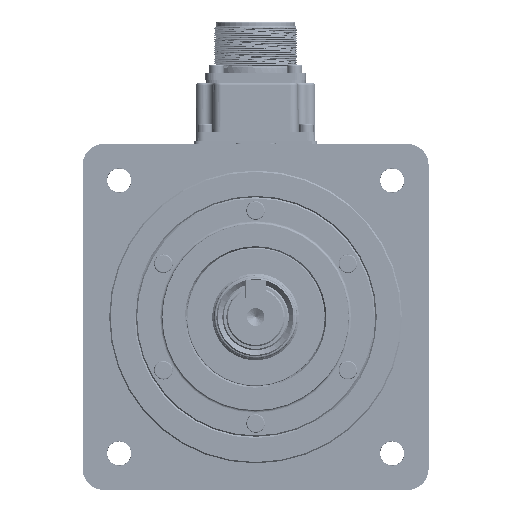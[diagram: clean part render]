
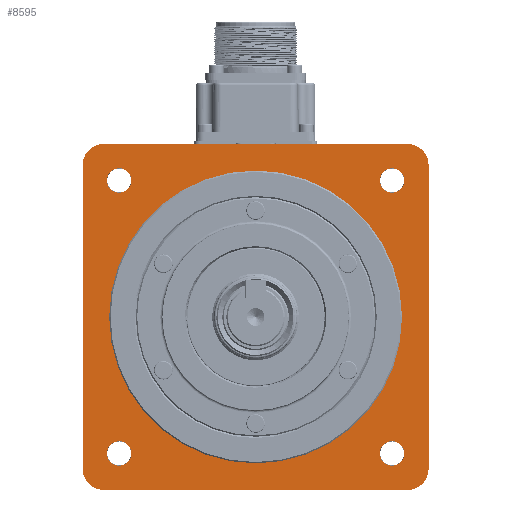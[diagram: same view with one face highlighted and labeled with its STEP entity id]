
A CAD part, front view. The second image highlights one B-rep face of the part: STEP entity #8595.
In plain terms, the highlighted planar face has unit normal (0, -1, 0).
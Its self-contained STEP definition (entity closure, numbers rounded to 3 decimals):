
#8595 = ADVANCED_FACE( '', ( #17385, #17386, #17387, #17388, #17389, #17390 ), #17391, .F. );
#17385 = FACE_BOUND( '', #37644, .T. );
#17386 = FACE_OUTER_BOUND( '', #37645, .T. );
#17387 = FACE_BOUND( '', #37646, .T. );
#17388 = FACE_BOUND( '', #37647, .T. );
#17389 = FACE_BOUND( '', #37648, .T. );
#17390 = FACE_BOUND( '', #37649, .T. );
#17391 = PLANE( '', #37650 );
#37644 = EDGE_LOOP( '', ( #62394 ) );
#37645 = EDGE_LOOP( '', ( #62395, #62396, #62397, #62398, #62399, #62400, #62401, #62402 ) );
#37646 = EDGE_LOOP( '', ( #62403 ) );
#37647 = EDGE_LOOP( '', ( #62404 ) );
#37648 = EDGE_LOOP( '', ( #62405 ) );
#37649 = EDGE_LOOP( '', ( #62406 ) );
#37650 = AXIS2_PLACEMENT_3D( '', #62407, #62408, #62409 );
#62394 = ORIENTED_EDGE( '', *, *, #63502, .F. );
#62395 = ORIENTED_EDGE( '', *, *, #65417, .F. );
#62396 = ORIENTED_EDGE( '', *, *, #70569, .T. );
#62397 = ORIENTED_EDGE( '', *, *, #70944, .F. );
#62398 = ORIENTED_EDGE( '', *, *, #63665, .T. );
#62399 = ORIENTED_EDGE( '', *, *, #68233, .F. );
#62400 = ORIENTED_EDGE( '', *, *, #69825, .T. );
#62401 = ORIENTED_EDGE( '', *, *, #67775, .F. );
#62402 = ORIENTED_EDGE( '', *, *, #70189, .T. );
#62403 = ORIENTED_EDGE( '', *, *, #66067, .F. );
#62404 = ORIENTED_EDGE( '', *, *, #64463, .F. );
#62405 = ORIENTED_EDGE( '', *, *, #65969, .F. );
#62406 = ORIENTED_EDGE( '', *, *, #68935, .F. );
#62407 = CARTESIAN_POINT( '', ( 0., 1.2, 55. ) );
#62408 = DIRECTION( '', ( 0., 1., 0. ) );
#62409 = DIRECTION( '', ( 0., 0., 1. ) );
#63502 = EDGE_CURVE( '', #72454, #72454, #72455, .T. );
#63665 = EDGE_CURVE( '', #72747, #72745, #72748, .T. );
#64463 = EDGE_CURVE( '', #74149, #74149, #74150, .F. );
#65417 = EDGE_CURVE( '', #75732, #75735, #75736, .F. );
#65969 = EDGE_CURVE( '', #76644, #76644, #76645, .F. );
#66067 = EDGE_CURVE( '', #76797, #76797, #76798, .F. );
#67775 = EDGE_CURVE( '', #79382, #79385, #79386, .F. );
#68233 = EDGE_CURVE( '', #80045, #72745, #80047, .F. );
#68935 = EDGE_CURVE( '', #81005, #81005, #81006, .F. );
#69825 = EDGE_CURVE( '', #80045, #79385, #82201, .T. );
#70189 = EDGE_CURVE( '', #79382, #75735, #82649, .T. );
#70569 = EDGE_CURVE( '', #75732, #83121, #83123, .T. );
#70944 = EDGE_CURVE( '', #72747, #83121, #83544, .F. );
#72454 = VERTEX_POINT( '', #84971 );
#72455 = CIRCLE( '', #84972, 55. );
#72745 = VERTEX_POINT( '', #85568 );
#72747 = VERTEX_POINT( '', #85571 );
#72748 = LINE( '', #85572, #85573 );
#74149 = VERTEX_POINT( '', #89912 );
#74150 = CIRCLE( '', #89913, 4.6 );
#75732 = VERTEX_POINT( '', #93304 );
#75735 = VERTEX_POINT( '', #93308 );
#75736 = CIRCLE( '', #93309, 8. );
#76644 = VERTEX_POINT( '', #94956 );
#76645 = CIRCLE( '', #94957, 4.6 );
#76797 = VERTEX_POINT( '', #95358 );
#76798 = CIRCLE( '', #95359, 4.6 );
#79382 = VERTEX_POINT( '', #101082 );
#79385 = VERTEX_POINT( '', #101086 );
#79386 = CIRCLE( '', #101087, 8. );
#80045 = VERTEX_POINT( '', #102389 );
#80047 = CIRCLE( '', #102392, 8. );
#81005 = VERTEX_POINT( '', #104660 );
#81006 = CIRCLE( '', #104661, 4.6 );
#82201 = LINE( '', #108490, #108491 );
#82649 = LINE( '', #109528, #109529 );
#83121 = VERTEX_POINT( '', #110655 );
#83123 = LINE( '', #110658, #110659 );
#83544 = CIRCLE( '', #111448, 8. );
#84971 = CARTESIAN_POINT( '', ( 0., 1.2, -55. ) );
#84972 = AXIS2_PLACEMENT_3D( '', #112906, #112907, #112908 );
#85568 = CARTESIAN_POINT( '', ( 57., 1.2, -65. ) );
#85571 = CARTESIAN_POINT( '', ( -57., 1.2, -65. ) );
#85572 = CARTESIAN_POINT( '', ( -65., 1.2, -65. ) );
#85573 = VECTOR( '', #113083, 1000. );
#89912 = CARTESIAN_POINT( '', ( -51.265, 1.2, -46.665 ) );
#89913 = AXIS2_PLACEMENT_3D( '', #114000, #114001, #114002 );
#93304 = CARTESIAN_POINT( '', ( -65., 1.2, 57. ) );
#93308 = CARTESIAN_POINT( '', ( -57., 1.2, 65. ) );
#93309 = AXIS2_PLACEMENT_3D( '', #115082, #115083, #115084 );
#94956 = CARTESIAN_POINT( '', ( 51.265, 1.2, -46.665 ) );
#94957 = AXIS2_PLACEMENT_3D( '', #115735, #115736, #115737 );
#95358 = CARTESIAN_POINT( '', ( -51.265, 1.2, 55.866 ) );
#95359 = AXIS2_PLACEMENT_3D( '', #115843, #115844, #115845 );
#101082 = CARTESIAN_POINT( '', ( 57., 1.2, 65. ) );
#101086 = CARTESIAN_POINT( '', ( 65., 1.2, 57. ) );
#101087 = AXIS2_PLACEMENT_3D( '', #117561, #117562, #117563 );
#102389 = CARTESIAN_POINT( '', ( 65., 1.2, -57. ) );
#102392 = AXIS2_PLACEMENT_3D( '', #118042, #118043, #118044 );
#104660 = CARTESIAN_POINT( '', ( 51.265, 1.2, 55.866 ) );
#104661 = AXIS2_PLACEMENT_3D( '', #118692, #118693, #118694 );
#108490 = CARTESIAN_POINT( '', ( 65., 1.2, -65. ) );
#108491 = VECTOR( '', #119467, 1000. );
#109528 = CARTESIAN_POINT( '', ( 65., 1.2, 65. ) );
#109529 = VECTOR( '', #119782, 1000. );
#110655 = CARTESIAN_POINT( '', ( -65., 1.2, -57. ) );
#110658 = CARTESIAN_POINT( '', ( -65., 1.2, 65. ) );
#110659 = VECTOR( '', #120066, 1000. );
#111448 = AXIS2_PLACEMENT_3D( '', #120309, #120310, #120311 );
#112906 = CARTESIAN_POINT( '', ( 0., 1.2, 0. ) );
#112907 = DIRECTION( '', ( 0., -1., 0. ) );
#112908 = DIRECTION( '', ( 0., 0., -1. ) );
#113083 = DIRECTION( '', ( 1., 0., 0. ) );
#114000 = CARTESIAN_POINT( '', ( -51.265, 1.2, -51.265 ) );
#114001 = DIRECTION( '', ( 0., 1., 0. ) );
#114002 = DIRECTION( '', ( 0., 0., 1. ) );
#115082 = CARTESIAN_POINT( '', ( -57., 1.2, 57. ) );
#115083 = DIRECTION( '', ( 0., -1., 0. ) );
#115084 = DIRECTION( '', ( 0., 0., -1. ) );
#115735 = CARTESIAN_POINT( '', ( 51.265, 1.2, -51.265 ) );
#115736 = DIRECTION( '', ( 0., 1., 0. ) );
#115737 = DIRECTION( '', ( 0., 0., 1. ) );
#115843 = CARTESIAN_POINT( '', ( -51.265, 1.2, 51.265 ) );
#115844 = DIRECTION( '', ( 0., 1., 0. ) );
#115845 = DIRECTION( '', ( 0., 0., 1. ) );
#117561 = CARTESIAN_POINT( '', ( 57., 1.2, 57. ) );
#117562 = DIRECTION( '', ( 0., -1., 0. ) );
#117563 = DIRECTION( '', ( 0., 0., -1. ) );
#118042 = CARTESIAN_POINT( '', ( 57., 1.2, -57. ) );
#118043 = DIRECTION( '', ( 0., -1., 0. ) );
#118044 = DIRECTION( '', ( 0., 0., -1. ) );
#118692 = CARTESIAN_POINT( '', ( 51.265, 1.2, 51.265 ) );
#118693 = DIRECTION( '', ( 0., 1., 0. ) );
#118694 = DIRECTION( '', ( 0., 0., 1. ) );
#119467 = DIRECTION( '', ( 0., 0., 1. ) );
#119782 = DIRECTION( '', ( -1., 0., 0. ) );
#120066 = DIRECTION( '', ( 0., 0., -1. ) );
#120309 = CARTESIAN_POINT( '', ( -57., 1.2, -57. ) );
#120310 = DIRECTION( '', ( 0., -1., 0. ) );
#120311 = DIRECTION( '', ( 0., 0., -1. ) );
